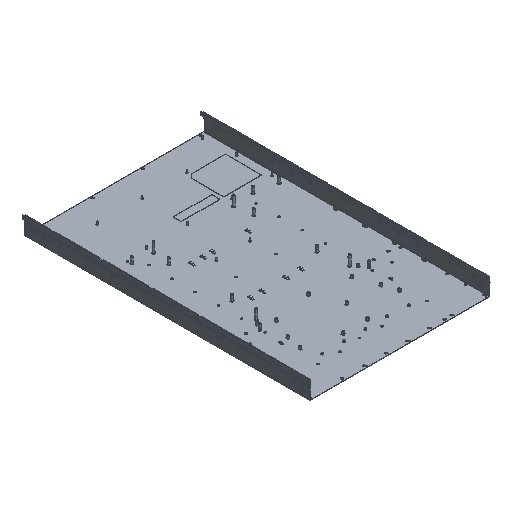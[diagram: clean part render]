
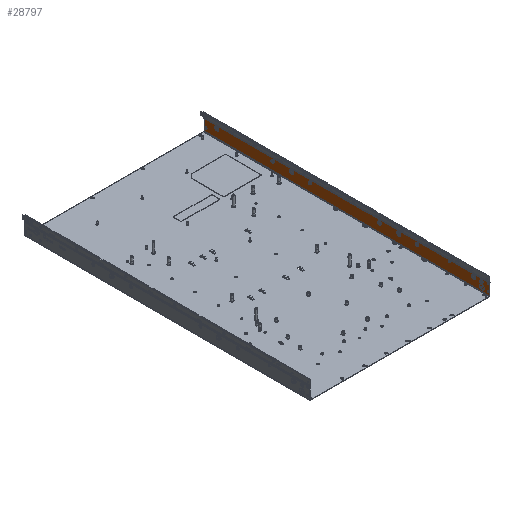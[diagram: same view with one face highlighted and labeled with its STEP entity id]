
A CAD part, isometric view. The second image highlights one B-rep face of the part: STEP entity #28797.
In plain terms, the highlighted planar face has unit normal (-1, 0, 0).
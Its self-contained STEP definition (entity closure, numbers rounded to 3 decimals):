
#21807=CARTESIAN_POINT('',(213.,4.5,6.75));
#21808=VERTEX_POINT('',#21807);
#21809=CARTESIAN_POINT('',(213.,4.5,8.));
#21810=DIRECTION('',(1.0,0.0,0.0));
#21811=DIRECTION('',(0.0,0.0,-1.0));
#21812=AXIS2_PLACEMENT_3D('',#21809,#21810,#21811);
#21813=CIRCLE('',#21812,1.25);
#21814=EDGE_CURVE('',#21808,#21808,#21813,.T.);
#21855=CARTESIAN_POINT('',(213.,4.5,23.75));
#21856=VERTEX_POINT('',#21855);
#21857=CARTESIAN_POINT('',(213.,4.5,25.));
#21858=DIRECTION('',(1.0,0.0,0.0));
#21859=DIRECTION('',(0.0,0.0,-1.0));
#21860=AXIS2_PLACEMENT_3D('',#21857,#21858,#21859);
#21861=CIRCLE('',#21860,1.25);
#21862=EDGE_CURVE('',#21856,#21856,#21861,.T.);
#21903=CARTESIAN_POINT('',(213.,96.5,22.55));
#21904=VERTEX_POINT('',#21903);
#21905=CARTESIAN_POINT('',(213.,96.5,23.8));
#21906=DIRECTION('',(1.0,0.0,0.0));
#21907=DIRECTION('',(0.0,0.0,-1.0));
#21908=AXIS2_PLACEMENT_3D('',#21905,#21906,#21907);
#21909=CIRCLE('',#21908,1.25);
#21910=EDGE_CURVE('',#21904,#21904,#21909,.T.);
#25269=CARTESIAN_POINT('',(213.,514.35,24.2));
#25270=VERTEX_POINT('',#25269);
#25271=CARTESIAN_POINT('',(213.,514.35,21.8));
#25272=DIRECTION('',(1.0,0.0,0.0));
#25273=DIRECTION('',(0.0,0.0,-1.0));
#25274=AXIS2_PLACEMENT_3D('',#25271,#25272,#25273);
#25275=CIRCLE('',#25274,2.4);
#25276=EDGE_CURVE('',#25270,#25270,#25275,.T.);
#25325=CARTESIAN_POINT('',(213.,260.35,24.2));
#25326=VERTEX_POINT('',#25325);
#25327=CARTESIAN_POINT('',(213.,260.35,21.8));
#25328=DIRECTION('',(1.0,0.0,0.0));
#25329=DIRECTION('',(0.0,0.0,-1.0));
#25330=AXIS2_PLACEMENT_3D('',#25327,#25328,#25329);
#25331=CIRCLE('',#25330,2.4);
#25332=EDGE_CURVE('',#25326,#25326,#25331,.T.);
#25381=CARTESIAN_POINT('',(213.,171.45,24.2));
#25382=VERTEX_POINT('',#25381);
#25383=CARTESIAN_POINT('',(213.,171.45,21.8));
#25384=DIRECTION('',(1.0,0.0,0.0));
#25385=DIRECTION('',(0.0,0.0,-1.0));
#25386=AXIS2_PLACEMENT_3D('',#25383,#25384,#25385);
#25387=CIRCLE('',#25386,2.4);
#25388=EDGE_CURVE('',#25382,#25382,#25387,.T.);
#25437=CARTESIAN_POINT('',(213.,425.45,24.2));
#25438=VERTEX_POINT('',#25437);
#25439=CARTESIAN_POINT('',(213.,425.45,21.8));
#25440=DIRECTION('',(1.0,0.0,0.0));
#25441=DIRECTION('',(0.0,0.0,-1.0));
#25442=AXIS2_PLACEMENT_3D('',#25439,#25440,#25441);
#25443=CIRCLE('',#25442,2.4);
#25444=EDGE_CURVE('',#25438,#25438,#25443,.T.);
#25493=CARTESIAN_POINT('',(213.,19.0,24.2));
#25494=VERTEX_POINT('',#25493);
#25495=CARTESIAN_POINT('',(213.,19.0,21.8));
#25496=DIRECTION('',(1.0,0.0,0.0));
#25497=DIRECTION('',(0.0,0.0,-1.0));
#25498=AXIS2_PLACEMENT_3D('',#25495,#25496,#25497);
#25499=CIRCLE('',#25498,2.4);
#25500=EDGE_CURVE('',#25494,#25494,#25499,.T.);
#25549=CARTESIAN_POINT('',(213.,469.9,26.1));
#25550=VERTEX_POINT('',#25549);
#25551=CARTESIAN_POINT('',(213.,469.9,21.8));
#25552=DIRECTION('',(1.0,0.0,0.0));
#25553=DIRECTION('',(0.0,0.0,-1.0));
#25554=AXIS2_PLACEMENT_3D('',#25551,#25552,#25553);
#25555=CIRCLE('',#25554,4.3);
#25556=EDGE_CURVE('',#25550,#25550,#25555,.T.);
#25605=CARTESIAN_POINT('',(213.,38.1,26.1));
#25606=VERTEX_POINT('',#25605);
#25607=CARTESIAN_POINT('',(213.,38.1,21.8));
#25608=DIRECTION('',(1.0,0.0,0.0));
#25609=DIRECTION('',(0.0,0.0,-1.0));
#25610=AXIS2_PLACEMENT_3D('',#25607,#25608,#25609);
#25611=CIRCLE('',#25610,4.3);
#25612=EDGE_CURVE('',#25606,#25606,#25611,.T.);
#25661=CARTESIAN_POINT('',(213.,215.9,26.1));
#25662=VERTEX_POINT('',#25661);
#25663=CARTESIAN_POINT('',(213.,215.9,21.8));
#25664=DIRECTION('',(1.0,0.0,0.0));
#25665=DIRECTION('',(0.0,0.0,-1.0));
#25666=AXIS2_PLACEMENT_3D('',#25663,#25664,#25665);
#25667=CIRCLE('',#25666,4.3);
#25668=EDGE_CURVE('',#25662,#25662,#25667,.T.);
#25717=CARTESIAN_POINT('',(213.,647.7,26.1));
#25718=VERTEX_POINT('',#25717);
#25719=CARTESIAN_POINT('',(213.,647.7,21.8));
#25720=DIRECTION('',(1.0,0.0,0.0));
#25721=DIRECTION('',(0.0,0.0,-1.0));
#25722=AXIS2_PLACEMENT_3D('',#25719,#25720,#25721);
#25723=CIRCLE('',#25722,4.3);
#25724=EDGE_CURVE('',#25718,#25718,#25723,.T.);
#28063=CARTESIAN_POINT('',(213.,674.5,11.208));
#28064=VERTEX_POINT('',#28063);
#28065=CARTESIAN_POINT('',(213.,674.5,9.5));
#28066=DIRECTION('',(1.0,0.0,0.0));
#28067=DIRECTION('',(0.0,0.0,-1.0));
#28068=AXIS2_PLACEMENT_3D('',#28065,#28066,#28067);
#28069=CIRCLE('',#28068,1.708);
#28070=EDGE_CURVE('',#28064,#28064,#28069,.T.);
#28510=CARTESIAN_POINT('',(213.,677.7,27.872));
#28511=VERTEX_POINT('',#28510);
#28534=CARTESIAN_POINT('',(213.,0.,27.872));
#28535=VERTEX_POINT('',#28534);
#28588=CARTESIAN_POINT('',(213.,0.0,27.872));
#28589=DIRECTION('',(0.0,1.0,0.0));
#28590=VECTOR('',#28589,677.7);
#28591=LINE('',#28588,#28590);
#28592=EDGE_CURVE('',#28535,#28511,#28591,.T.);
#28728=CARTESIAN_POINT('',(213.,338.85,14.012));
#28729=DIRECTION('',(-1.0,0.0,0.0));
#28730=DIRECTION('',(0.0,0.0,1.0));
#28731=AXIS2_PLACEMENT_3D('',#28728,#28729,#28730);
#28732=PLANE('',#28731);
#28733=ORIENTED_EDGE('',*,*,#28592,.T.);
#28734=CARTESIAN_POINT('',(213.,677.7,1.5));
#28735=VERTEX_POINT('',#28734);
#28736=CARTESIAN_POINT('',(213.,677.7,1.5));
#28737=DIRECTION('',(0.0,0.0,1.0));
#28738=VECTOR('',#28737,26.372);
#28739=LINE('',#28736,#28738);
#28740=EDGE_CURVE('',#28735,#28511,#28739,.T.);
#28741=ORIENTED_EDGE('',*,*,#28740,.F.);
#28742=CARTESIAN_POINT('',(213.0,0.,1.5));
#28743=VERTEX_POINT('',#28742);
#28744=CARTESIAN_POINT('',(213.,677.7,1.5));
#28745=DIRECTION('',(0.0,-1.0,0.0));
#28746=VECTOR('',#28745,677.7);
#28747=LINE('',#28744,#28746);
#28748=EDGE_CURVE('',#28735,#28743,#28747,.T.);
#28749=ORIENTED_EDGE('',*,*,#28748,.T.);
#28750=CARTESIAN_POINT('',(213.,0.,27.872));
#28751=DIRECTION('',(0.0,0.0,-1.0));
#28752=VECTOR('',#28751,26.372);
#28753=LINE('',#28750,#28752);
#28754=EDGE_CURVE('',#28535,#28743,#28753,.T.);
#28755=ORIENTED_EDGE('',*,*,#28754,.F.);
#28756=EDGE_LOOP('',(#28733,#28741,#28749,#28755));
#28757=FACE_OUTER_BOUND('',#28756,.T.);
#28758=ORIENTED_EDGE('',*,*,#21814,.T.);
#28759=EDGE_LOOP('',(#28758));
#28760=FACE_BOUND('',#28759,.T.);
#28761=ORIENTED_EDGE('',*,*,#21862,.T.);
#28762=EDGE_LOOP('',(#28761));
#28763=FACE_BOUND('',#28762,.T.);
#28764=ORIENTED_EDGE('',*,*,#21910,.T.);
#28765=EDGE_LOOP('',(#28764));
#28766=FACE_BOUND('',#28765,.T.);
#28767=ORIENTED_EDGE('',*,*,#25276,.T.);
#28768=EDGE_LOOP('',(#28767));
#28769=FACE_BOUND('',#28768,.T.);
#28770=ORIENTED_EDGE('',*,*,#25332,.T.);
#28771=EDGE_LOOP('',(#28770));
#28772=FACE_BOUND('',#28771,.T.);
#28773=ORIENTED_EDGE('',*,*,#25388,.T.);
#28774=EDGE_LOOP('',(#28773));
#28775=FACE_BOUND('',#28774,.T.);
#28776=ORIENTED_EDGE('',*,*,#25444,.T.);
#28777=EDGE_LOOP('',(#28776));
#28778=FACE_BOUND('',#28777,.T.);
#28779=ORIENTED_EDGE('',*,*,#25500,.T.);
#28780=EDGE_LOOP('',(#28779));
#28781=FACE_BOUND('',#28780,.T.);
#28782=ORIENTED_EDGE('',*,*,#25556,.T.);
#28783=EDGE_LOOP('',(#28782));
#28784=FACE_BOUND('',#28783,.T.);
#28785=ORIENTED_EDGE('',*,*,#25612,.T.);
#28786=EDGE_LOOP('',(#28785));
#28787=FACE_BOUND('',#28786,.T.);
#28788=ORIENTED_EDGE('',*,*,#25668,.T.);
#28789=EDGE_LOOP('',(#28788));
#28790=FACE_BOUND('',#28789,.T.);
#28791=ORIENTED_EDGE('',*,*,#25724,.T.);
#28792=EDGE_LOOP('',(#28791));
#28793=FACE_BOUND('',#28792,.T.);
#28794=ORIENTED_EDGE('',*,*,#28070,.T.);
#28795=EDGE_LOOP('',(#28794));
#28796=FACE_BOUND('',#28795,.T.);
#28797=ADVANCED_FACE('',(#28757,#28760,#28763,#28766,#28769,#28772,#28775,#28778,#28781,#28784,#28787,#28790,#28793,#28796),#28732,.T.);
